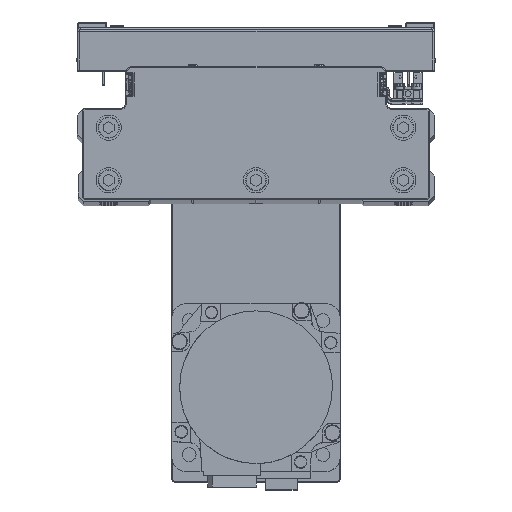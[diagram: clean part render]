
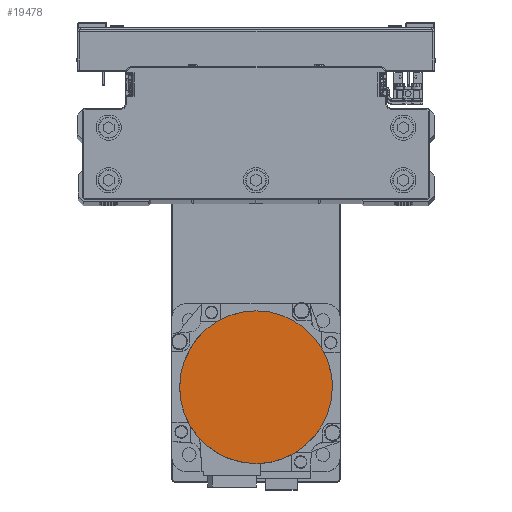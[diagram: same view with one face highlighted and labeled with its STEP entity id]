
A CAD part, top view. The second image highlights one B-rep face of the part: STEP entity #19478.
In plain terms, the highlighted planar face has unit normal (0, 0, 1) as drawn and (0, 0, -1) by its records, which use the part's own axes.
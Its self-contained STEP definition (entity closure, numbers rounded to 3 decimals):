
#1000 = AXIS2_PLACEMENT_3D ( 'NONE', #17089, #31042, #44973 ) ;
#1356 = CARTESIAN_POINT ( 'NONE',  ( -23.988, -27.348, -122.2 ) ) ;
#1464 = ORIENTED_EDGE ( 'NONE', *, *, #12379, .F. ) ;
#1504 = ORIENTED_EDGE ( 'NONE', *, *, #5191, .F. ) ;
#1978 = PLANE ( 'NONE',  #37625 ) ;
#3365 = CARTESIAN_POINT ( 'NONE',  ( -16.086, 32.628, -122.2 ) ) ;
#3720 = CIRCLE ( 'NONE', #41769, 36.3 ) ;
#4757 = CARTESIAN_POINT ( 'NONE',  ( -31.502, -18.192, -122.2 ) ) ;
#5191 = EDGE_CURVE ( 'NONE', #33828, #8442, #3720, .T. ) ;
#6762 = CARTESIAN_POINT ( 'NONE',  ( -4.752, 36.066, -122.2 ) ) ;
#7003 = CARTESIAN_POINT ( 'NONE',  ( -36.066, 4.752, -122.2 ) ) ;
#8172 = CARTESIAN_POINT ( 'NONE',  ( -35.139, -9.412, -122.2 ) ) ;
#8405 = CARTESIAN_POINT ( 'NONE',  ( -2.376, -36.3, -122.2 ) ) ;
#8442 = VERTEX_POINT ( 'NONE', #22052 ) ;
#8476 = DIRECTION ( 'NONE',  ( -1., 0., 0. ) ) ;
#9930 = EDGE_CURVE ( 'NONE', #8442, #40016, #15322, .T. ) ;
#10416 = CARTESIAN_POINT ( 'NONE',  ( -32.628, 16.086, -122.2 ) ) ;
#10726 = VERTEX_POINT ( 'NONE', #44778 ) ;
#10966 = B_SPLINE_CURVE_WITH_KNOTS ( 'NONE', 3,
 ( #11622, #25529, #39469, #8172, #22085, #36050, #4757, #18677, #32639, #1356, #15247, #29182, #43108, #11821, #25750, #39699, #8405, #22320 ),
 .UNSPECIFIED., .F., .F.,
 ( 4, 2, 2, 2, 2, 2, 2, 2, 4 ),
 ( 0., 0.125, 0.25, 0.375, 0.5, 0.625, 0.75, 0.875, 1. ),
 .UNSPECIFIED. ) ;
#11622 = CARTESIAN_POINT ( 'NONE',  ( -36.3, 0., -122.2 ) ) ;
#11821 = CARTESIAN_POINT ( 'NONE',  ( -11.696, -34.446, -122.2 ) ) ;
#12379 = EDGE_CURVE ( 'NONE', #10726, #33828, #14825, .T. ) ;
#13847 = CARTESIAN_POINT ( 'NONE',  ( -27.348, 23.988, -122.2 ) ) ;
#14825 = CIRCLE ( 'NONE', #1000, 36.3 ) ;
#15247 = CARTESIAN_POINT ( 'NONE',  ( -22.143, -28.862, -122.2 ) ) ;
#15322 = B_SPLINE_CURVE_WITH_KNOTS ( 'NONE', 3,
 ( #24114, #38060, #6762, #20670, #34638, #3365, #17271, #31219, #36138, #13847, #27772, #41704, #10416, #24341, #38297, #7003, #20912, #34874 ),
 .UNSPECIFIED., .F., .F.,
 ( 4, 2, 2, 2, 2, 2, 2, 2, 4 ),
 ( 0., 0.125, 0.25, 0.375, 0.5, 0.625, 0.75, 0.875, 1. ),
 .UNSPECIFIED. ) ;
#15796 = CARTESIAN_POINT ( 'NONE',  ( 36.3, 0., -122.2 ) ) ;
#15880 = CARTESIAN_POINT ( 'NONE',  ( 0., 0., -122.2 ) ) ;
#17089 = CARTESIAN_POINT ( 'NONE',  ( 0., 0., -122.2 ) ) ;
#17271 = CARTESIAN_POINT ( 'NONE',  ( -18.192, 31.502, -122.2 ) ) ;
#17799 = EDGE_CURVE ( 'NONE', #40016, #10726, #10966, .T. ) ;
#18677 = CARTESIAN_POINT ( 'NONE',  ( -28.862, -22.143, -122.2 ) ) ;
#19478 = ADVANCED_FACE ( 'NONE', ( #33249 ), #1978, .F. ) ;
#19512 = CARTESIAN_POINT ( 'NONE',  ( -36.3, 0., -122.2 ) ) ;
#20670 = CARTESIAN_POINT ( 'NONE',  ( -9.412, 35.139, -122.2 ) ) ;
#20912 = CARTESIAN_POINT ( 'NONE',  ( -36.3, 2.376, -122.2 ) ) ;
#22052 = CARTESIAN_POINT ( 'NONE',  ( 0., 36.3, -122.2 ) ) ;
#22085 = CARTESIAN_POINT ( 'NONE',  ( -34.446, -11.696, -122.2 ) ) ;
#22320 = CARTESIAN_POINT ( 'NONE',  ( 0., -36.3, -122.2 ) ) ;
#24114 = CARTESIAN_POINT ( 'NONE',  ( 0., 36.3, -122.2 ) ) ;
#24341 = CARTESIAN_POINT ( 'NONE',  ( -34.446, 11.696, -122.2 ) ) ;
#25529 = CARTESIAN_POINT ( 'NONE',  ( -36.3, -2.376, -122.2 ) ) ;
#25750 = CARTESIAN_POINT ( 'NONE',  ( -9.412, -35.139, -122.2 ) ) ;
#25817 = CARTESIAN_POINT ( 'NONE',  ( 0., 0., -122.2 ) ) ;
#27772 = CARTESIAN_POINT ( 'NONE',  ( -28.862, 22.143, -122.2 ) ) ;
#29182 = CARTESIAN_POINT ( 'NONE',  ( -18.192, -31.502, -122.2 ) ) ;
#29826 = DIRECTION ( 'NONE',  ( 0., 0., 1. ) ) ;
#31042 = DIRECTION ( 'NONE',  ( 0., 0., 1. ) ) ;
#31219 = CARTESIAN_POINT ( 'NONE',  ( -22.143, 28.862, -122.2 ) ) ;
#32639 = CARTESIAN_POINT ( 'NONE',  ( -27.348, -23.988, -122.2 ) ) ;
#32881 = ORIENTED_EDGE ( 'NONE', *, *, #9930, .F. ) ;
#33249 = FACE_OUTER_BOUND ( 'NONE', #42934, .T. ) ;
#33828 = VERTEX_POINT ( 'NONE', #15796 ) ;
#34638 = CARTESIAN_POINT ( 'NONE',  ( -11.696, 34.446, -122.2 ) ) ;
#34874 = CARTESIAN_POINT ( 'NONE',  ( -36.3, 0., -122.2 ) ) ;
#36050 = CARTESIAN_POINT ( 'NONE',  ( -32.628, -16.086, -122.2 ) ) ;
#36138 = CARTESIAN_POINT ( 'NONE',  ( -23.988, 27.348, -122.2 ) ) ;
#37625 = AXIS2_PLACEMENT_3D ( 'NONE', #15880, #29826, #43756 ) ;
#37973 = ORIENTED_EDGE ( 'NONE', *, *, #17799, .F. ) ;
#38060 = CARTESIAN_POINT ( 'NONE',  ( -2.376, 36.3, -122.2 ) ) ;
#38297 = CARTESIAN_POINT ( 'NONE',  ( -35.139, 9.412, -122.2 ) ) ;
#39469 = CARTESIAN_POINT ( 'NONE',  ( -36.066, -4.752, -122.2 ) ) ;
#39699 = CARTESIAN_POINT ( 'NONE',  ( -4.752, -36.066, -122.2 ) ) ;
#39770 = DIRECTION ( 'NONE',  ( 0., 0., 1. ) ) ;
#40016 = VERTEX_POINT ( 'NONE', #19512 ) ;
#41704 = CARTESIAN_POINT ( 'NONE',  ( -31.502, 18.192, -122.2 ) ) ;
#41769 = AXIS2_PLACEMENT_3D ( 'NONE', #25817, #39770, #8476 ) ;
#42934 = EDGE_LOOP ( 'NONE', ( #1464, #37973, #32881, #1504 ) ) ;
#43108 = CARTESIAN_POINT ( 'NONE',  ( -16.086, -32.628, -122.2 ) ) ;
#43756 = DIRECTION ( 'NONE',  ( 1., 0., 0. ) ) ;
#44778 = CARTESIAN_POINT ( 'NONE',  ( 0., -36.3, -122.2 ) ) ;
#44973 = DIRECTION ( 'NONE',  ( -1., 0., 0. ) ) ;
